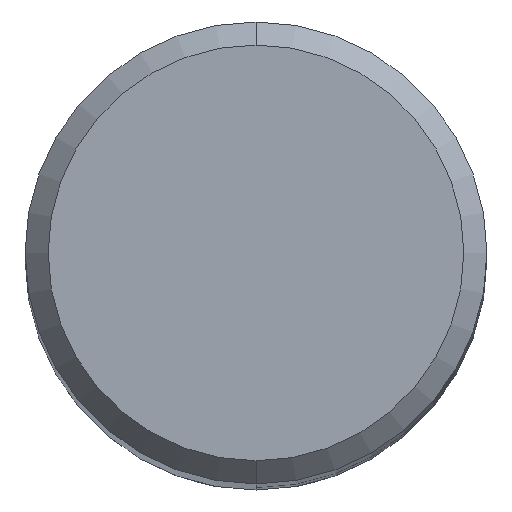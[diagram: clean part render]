
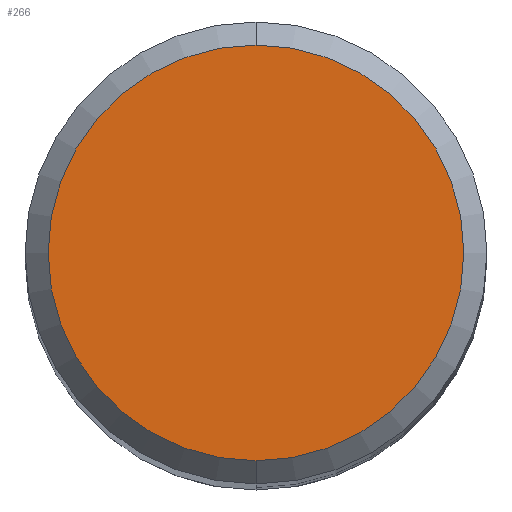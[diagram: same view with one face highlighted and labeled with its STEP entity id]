
A CAD part, top view. The second image highlights one B-rep face of the part: STEP entity #266.
In plain terms, the highlighted planar face has unit normal (0, 0, 1).
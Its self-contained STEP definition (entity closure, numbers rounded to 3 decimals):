
#172=EDGE_CURVE('',#318,#248,#453,.T.);
#248=VERTEX_POINT('',#537);
#266=ADVANCED_FACE('',(#556),#557,.T.);
#318=VERTEX_POINT('',#614);
#402=EDGE_CURVE('',#248,#318,#707,.T.);
#453=CIRCLE('',#755,3.6);
#537=CARTESIAN_POINT('',(0.,-3.6,0.0));
#556=FACE_OUTER_BOUND('',#1003,.T.);
#557=PLANE('',#1004);
#614=CARTESIAN_POINT('',(0.0,3.6,0.0));
#707=CIRCLE('',#1284,3.6);
#755=AXIS2_PLACEMENT_3D('',#1349,#1350,#1351);
#1003=EDGE_LOOP('',(#1456,#1457));
#1004=AXIS2_PLACEMENT_3D('',#1458,#1459,#1460);
#1284=AXIS2_PLACEMENT_3D('',#1635,#1636,#1637);
#1349=CARTESIAN_POINT('',(0.0,0.0,0.0));
#1350=DIRECTION('',(0.0,0.0,-1.0));
#1351=DIRECTION('',(0.0,1.0,0.0));
#1456=ORIENTED_EDGE('',*,*,#172,.F.);
#1457=ORIENTED_EDGE('',*,*,#402,.F.);
#1458=CARTESIAN_POINT('',(0.0,1.8,0.0));
#1459=DIRECTION('',(-0.0,0.0,1.0));
#1460=DIRECTION('',(0.0,-1.0,0.0));
#1635=CARTESIAN_POINT('',(0.0,0.0,0.0));
#1636=DIRECTION('',(0.0,0.0,-1.0));
#1637=DIRECTION('',(0.0,1.0,0.0));
